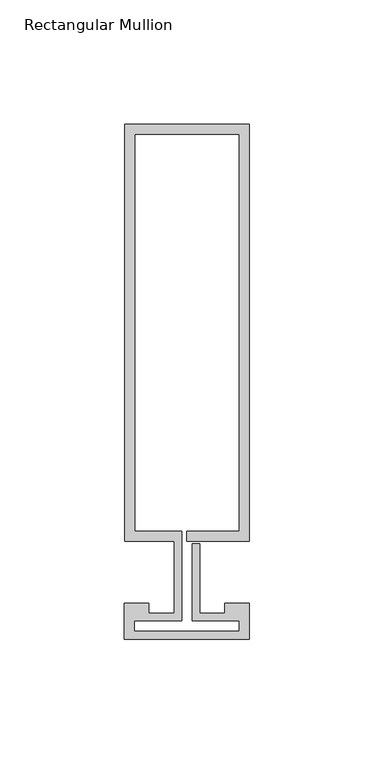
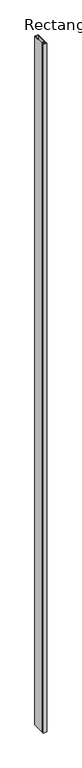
"""IFC4 building model written with IfcOpenShell, lengths in millimetres: member geometry, Rectangular Mullion : Reynaers_CW-50_Mullion-Transom_Vertical_167.5mm_Facecap-02A."""

from ifc_helpers import new_model, si_unit, frame, origin, place, context, project, spatial, polyline, outline, extrude, source, transform, mapped, element, save


def rectangular_mullion_db33fd7b(model_context):
    return source(origin(), model_context, "Body", "SweptSolid", [
        extrude(outline(polyline([(-24.8004059, 180.0), (25.1995941, 180.0), (25.1995941, 12.5), (0.0, 12.5), (0.0, 16.5), (21.1995941, 16.5), (21.1995941, 176.0), (-20.8004059, 176.0), (-20.8004059, 16.5), (-1.9004059, 16.5), (-1.9004059, -19.5), (-20.994845, -19.5), (-20.994845, -23.7191338), (21.1995941, -23.7191338), (21.1995941, -19.5), (2.2995941, -19.5), (2.2995941, 11.5), (5.2995941, 11.5), (5.2995941, -16.5), (15.2996495, -16.5), (15.2996495, -12.5), (25.1995941, -12.5), (25.1995941, -26.8), (-24.994845, -26.8), (-24.994845, -12.5), (-15.2996495, -12.5), (-15.2996495, -16.5), (-4.9004059, -16.5), (-4.9004059, 12.5), (-24.8004059, 12.5), (-24.8004059, 180.0)])), frame((0.0, 0.0, -10400.0), z_axis=(0.0, 0.0, 1.0), x_axis=(1.0, 0.0, 0.0)), (0.0, 0.0, 1.0), 10400.0),
    ])


if __name__ == "__main__":
    model = new_model("IFC4")
    model_context = context("Model", 3, world=origin())
    ifc_project = project(units=[si_unit("LENGTHUNIT", "METRE", prefix="MILLI")], contexts=[model_context])
    site = spatial("IfcSite", under=ifc_project)
    building = spatial("IfcBuilding", under=site)
    placement = place(None, origin())
    rectangular_mullion_shape = rectangular_mullion_db33fd7b(model_context)
    element("IfcMember", 1, ObjectType="Rectangular Mullion : Reynaers_CW-50_Mullion-Transom_Vertical_167.5mm_Facecap-02A", at=placement, inside=building, context=model_context, shape_type="MappedRepresentation", body=[
        mapped(rectangular_mullion_shape, transform((0.0, 0.0, 0.0), x_axis=(1.0, 0.0, 0.0), y_axis=(0.0, 1.0, 0.0), z_axis=(0.0, 0.0, 1.0))),
    ])
    save(model, "model.ifc")
